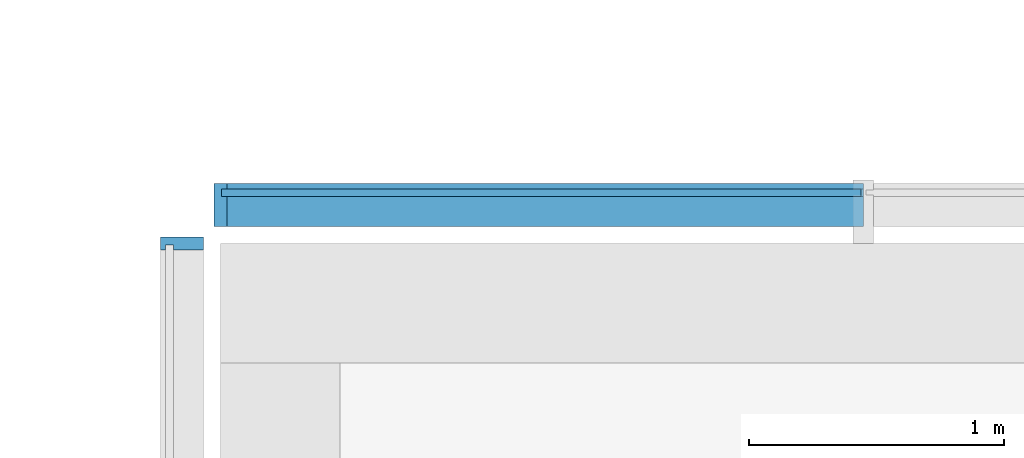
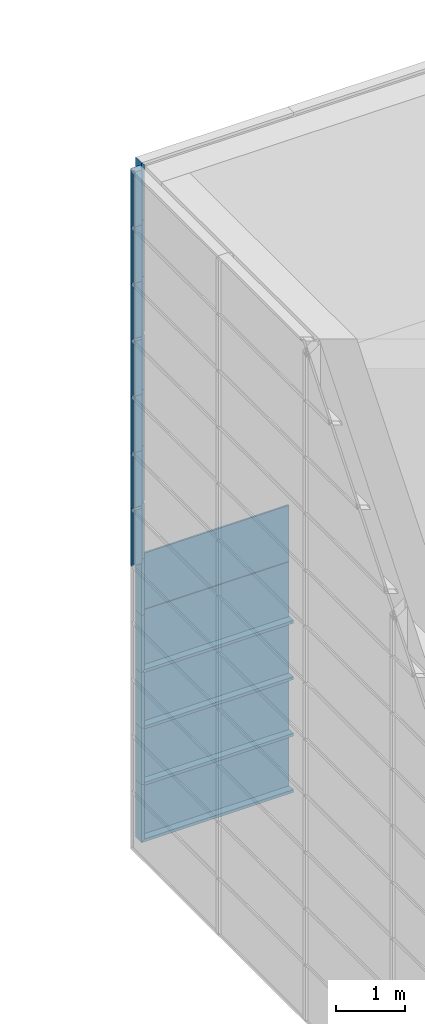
# One storey, part 39 of 105: 28 building element parts, 7 elements without a shape of their own.
"""IFC4 building model written with IfcOpenShell, lengths in millimetres."""

from ifc_helpers import new_model, entity, si_unit, converted_unit, derived_unit, direction, frame, origin_with_axes, place, context, subcontext, project, spatial, triangles, material, element, aggregate, save


model = new_model("IFC4")

# Units and contexts
model_context = context("Model", 3, precision=1e-05, world=origin_with_axes(), true_north=direction((0.0, 1.0)))
body_context = subcontext(model_context, "Body", "Model", "MODEL_VIEW")
ifc_project = project(units=[si_unit("LENGTHUNIT", "METRE", prefix="MILLI"), si_unit("AREAUNIT", "SQUARE_METRE"), si_unit("VOLUMEUNIT", "CUBIC_METRE"), converted_unit("PLANEANGLEUNIT", "DEGREE", entity("IfcLengthMeasure", 0.017453), si_unit("PLANEANGLEUNIT", "RADIAN"), dimensions=[0, 0, 0, 0, 0, 0, 0]), si_unit("SOLIDANGLEUNIT", "STERADIAN"), si_unit("MASSUNIT", "GRAM"), si_unit("TIMEUNIT", "SECOND"), si_unit("THERMODYNAMICTEMPERATUREUNIT", "DEGREE_CELSIUS"), si_unit("LUMINOUSINTENSITYUNIT", "LUMEN"), si_unit("POWERUNIT", "WATT"), derived_unit("THERMALTRANSMITTANCEUNIT", [(si_unit("POWERUNIT", "WATT"), 1), (si_unit("THERMODYNAMICTEMPERATUREUNIT", "KELVIN"), -1), (si_unit("AREAUNIT", "SQUARE_METRE"), -1)])], contexts=[model_context])

# Site, building, storey
site_placement = place(None, origin_with_axes())
site = spatial("IfcSite", under=ifc_project, at=site_placement, Name="Default Site", CompositionType="ELEMENT")
building_placement = place(site_placement, origin_with_axes())
building = spatial("IfcBuilding", under=site, at=building_placement, Name="Default Building", CompositionType="ELEMENT")
storey_placement = place(building_placement, origin_with_axes())
storey = spatial("IfcBuildingStorey", under=building, at=storey_placement, Name="OG - Story", CompositionType="ELEMENT", Elevation=0.0)

# Curtain wall, building element part
curtain_wall_1_placement = place(storey_placement, origin_with_axes())
curtain_wall_1 = element("IfcCurtainWall", 1, at=curtain_wall_1_placement, inside=storey, Name="Fassade-003", PredefinedType="NOTDEFINED")
ifc_material_1 = material(Name="Blech")
building_element_part_1_placement = place(curtain_wall_1_placement, frame((31551.391327, -51326.104944, 3000.0), z_axis=(0.0, 0.0, 1.0), x_axis=(1.0, 0.0, 0.0)))
building_element_part_1 = element("IfcBuildingElementPart", 2, at=building_element_part_1_placement, material=ifc_material_1, Name="Blech", PredefinedType="NOTDEFINED", context=body_context, shape_type="Tessellation", body=[
    triangles([(-14.999, 46731.842, 2995.0), (15.0, 46731.842, 2995.0), (133.0, 46761.842, 3025.0), (-34.999, 46761.842, 3025.0), (-34.999, 46711.842, 2975.0), (-14.999, 46711.842, 2975.0), (15.0, 46711.842, 2975.0), (133.0, 46711.842, 2975.0), (15.0, 46731.842, 2000.0), (15.0, 46711.842, 2000.0), (133.0, 46711.842, 2000.0), (133.0, 46761.842, 2000.0), (-34.999, 46761.842, 2000.0), (-34.999, 46711.842, 2000.0), (-14.999, 46711.842, 2000.0), (-14.999, 46731.842, 2000.0)], [[1, 2, 3], [1, 3, 4], [1, 4, 5], [1, 5, 6], [7, 8, 3], [7, 3, 2], [2, 9, 10], [2, 10, 7], [10, 11, 8], [10, 8, 7], [11, 12, 3], [11, 3, 8], [12, 13, 4], [12, 4, 3], [13, 14, 5], [13, 5, 4], [6, 5, 14], [6, 14, 15], [15, 16, 1], [15, 1, 6], [1, 16, 9], [1, 9, 2], [10, 11, 9], [9, 11, 12], [9, 12, 16], [16, 12, 13], [16, 13, 15], [15, 13, 14]], closed=False),
])
aggregate(curtain_wall_1, [building_element_part_1])

# Curtain wall, building element parts
curtain_wall_2_placement = place(storey_placement, origin_with_axes())
curtain_wall_2 = element("IfcCurtainWall", 3, at=curtain_wall_2_placement, inside=storey, Name="Fassade-003", PredefinedType="NOTDEFINED")
building_element_part_2_placement = place(curtain_wall_2_placement, frame((31551.391327, -51326.104944, 6000.0), z_axis=(0.0, 0.0, 1.0), x_axis=(1.0, 0.0, 0.0)))
building_element_part_2 = element("IfcBuildingElementPart", 4, at=building_element_part_2_placement, material=ifc_material_1, Name="Blech", PredefinedType="NOTDEFINED", context=body_context, shape_type="Tessellation", body=[
    triangles([(15.0, 46711.842, 1000.0), (133.0, 46711.842, 1000.0), (15.0, 46731.842, 1000.0), (133.0, 46761.842, 1000.0), (-14.999, 46731.842, 1000.0), (-34.999, 46761.842, 1000.0), (-14.999, 46711.842, 1000.0), (-34.999, 46711.842, 1000.0), (15.0, 46731.842, 5.0), (15.0, 46711.842, 25.0), (133.0, 46711.842, 25.0), (133.0, 46761.842, -24.999), (-34.999, 46761.842, -24.999), (-34.999, 46711.842, 25.0), (-14.999, 46711.842, 25.0), (-14.999, 46731.842, 5.0)], [[1, 2, 3], [3, 2, 4], [3, 4, 5], [5, 4, 6], [5, 6, 7], [7, 6, 8], [3, 9, 10], [3, 10, 1], [10, 11, 2], [10, 2, 1], [2, 11, 12], [2, 12, 4], [4, 12, 13], [4, 13, 6], [6, 13, 14], [6, 14, 8], [7, 8, 14], [7, 14, 15], [15, 16, 5], [15, 5, 7], [5, 16, 9], [5, 9, 3], [16, 9, 12], [16, 12, 13], [16, 13, 14], [16, 14, 15], [11, 12, 9], [11, 9, 10]], closed=False),
])
building_element_part_3_placement = place(curtain_wall_2_placement, frame((31551.391327, -51326.104944, 6000.0), z_axis=(0.0, 0.0, 1.0), x_axis=(1.0, 0.0, 0.0)))
building_element_part_3 = element("IfcBuildingElementPart", 5, at=building_element_part_3_placement, material=ifc_material_1, Name="Blech", PredefinedType="NOTDEFINED", context=body_context, shape_type="Tessellation", body=[
    triangles([(15.0, 46711.842, 2000.0), (133.0, 46711.842, 2000.0), (15.0, 46731.842, 2000.0), (133.0, 46761.842, 2000.0), (-14.999, 46731.842, 2000.0), (-34.999, 46761.842, 2000.0), (-14.999, 46711.842, 2000.0), (-34.999, 46711.842, 2000.0), (15.0, 46731.842, 1000.0), (15.0, 46711.842, 1000.0), (133.0, 46711.842, 1000.0), (133.0, 46761.842, 1000.0), (-34.999, 46761.842, 1000.0), (-34.999, 46711.842, 1000.0), (-14.999, 46711.842, 1000.0), (-14.999, 46731.842, 1000.0)], [[1, 2, 3], [3, 2, 4], [3, 4, 5], [5, 4, 6], [5, 6, 7], [7, 6, 8], [3, 9, 10], [3, 10, 1], [10, 11, 2], [10, 2, 1], [11, 12, 4], [11, 4, 2], [12, 13, 6], [12, 6, 4], [13, 14, 8], [13, 8, 6], [7, 8, 14], [7, 14, 15], [15, 16, 5], [15, 5, 7], [5, 16, 9], [5, 9, 3], [10, 11, 9], [9, 11, 12], [9, 12, 16], [16, 12, 13], [16, 13, 15], [15, 13, 14]], closed=False),
])
building_element_part_4_placement = place(curtain_wall_2_placement, frame((31551.391327, -51326.104944, 6000.0), z_axis=(0.0, 0.0, 1.0), x_axis=(1.0, 0.0, 0.0)))
building_element_part_4 = element("IfcBuildingElementPart", 6, at=building_element_part_4_placement, material=ifc_material_1, Name="Blech", PredefinedType="NOTDEFINED", context=body_context, shape_type="Tessellation", body=[
    triangles([(-14.999, 46731.842, 2995.0), (15.0, 46731.842, 2995.0), (133.0, 46761.842, 3025.0), (-34.999, 46761.842, 3025.0), (-34.999, 46711.842, 2975.0), (-14.999, 46711.842, 2975.0), (15.0, 46711.842, 2975.0), (133.0, 46711.842, 2975.0), (15.0, 46731.842, 2000.0), (15.0, 46711.842, 2000.0), (133.0, 46711.842, 2000.0), (133.0, 46761.842, 2000.0), (-34.999, 46761.842, 2000.0), (-34.999, 46711.842, 2000.0), (-14.999, 46711.842, 2000.0), (-14.999, 46731.842, 2000.0)], [[1, 2, 3], [1, 3, 4], [1, 4, 5], [1, 5, 6], [7, 8, 3], [7, 3, 2], [2, 9, 10], [2, 10, 7], [10, 11, 8], [10, 8, 7], [11, 12, 3], [11, 3, 8], [12, 13, 4], [12, 4, 3], [13, 14, 5], [13, 5, 4], [6, 5, 14], [6, 14, 15], [15, 16, 1], [15, 1, 6], [1, 16, 9], [1, 9, 2], [10, 11, 9], [9, 11, 12], [9, 12, 16], [16, 12, 13], [16, 13, 15], [15, 13, 14]], closed=False),
])
aggregate(curtain_wall_2, [building_element_part_2, building_element_part_3, building_element_part_4])

curtain_wall_3_placement = place(storey_placement, origin_with_axes())
curtain_wall_3 = element("IfcCurtainWall", 7, at=curtain_wall_3_placement, inside=storey, Name="Fassade-003", PredefinedType="NOTDEFINED")
building_element_part_5_placement = place(curtain_wall_3_placement, frame((31551.391327, -51326.104944, 9000.0), z_axis=(0.0, 0.0, 1.0), x_axis=(1.0, 0.0, 0.0)))
building_element_part_5 = element("IfcBuildingElementPart", 8, at=building_element_part_5_placement, material=ifc_material_1, Name="Blech", PredefinedType="NOTDEFINED", context=body_context, shape_type="Tessellation", body=[
    triangles([(15.0, 46711.842, 1000.0), (133.0, 46711.842, 1000.0), (15.0, 46731.842, 1000.0), (133.0, 46761.842, 1000.0), (-14.999, 46731.842, 1000.0), (-34.999, 46761.842, 1000.0), (-14.999, 46711.842, 1000.0), (-34.999, 46711.842, 1000.0), (15.0, 46731.842, 5.0), (15.0, 46711.842, 25.0), (133.0, 46711.842, 25.0), (133.0, 46761.842, -24.999), (-34.999, 46761.842, -24.999), (-34.999, 46711.842, 25.0), (-14.999, 46711.842, 25.0), (-14.999, 46731.842, 5.0)], [[1, 2, 3], [3, 2, 4], [3, 4, 5], [5, 4, 6], [5, 6, 7], [7, 6, 8], [3, 9, 10], [3, 10, 1], [10, 11, 2], [10, 2, 1], [2, 11, 12], [2, 12, 4], [4, 12, 13], [4, 13, 6], [6, 13, 14], [6, 14, 8], [7, 8, 14], [7, 14, 15], [15, 16, 5], [15, 5, 7], [5, 16, 9], [5, 9, 3], [16, 9, 12], [16, 12, 13], [16, 13, 14], [16, 14, 15], [11, 12, 9], [11, 9, 10]], closed=False),
])
building_element_part_6_placement = place(curtain_wall_3_placement, frame((31551.391327, -51326.104944, 9000.0), z_axis=(0.0, 0.0, 1.0), x_axis=(1.0, 0.0, 0.0)))
building_element_part_6 = element("IfcBuildingElementPart", 9, at=building_element_part_6_placement, material=ifc_material_1, Name="Blech", PredefinedType="NOTDEFINED", context=body_context, shape_type="Tessellation", body=[
    triangles([(15.0, 46711.842, 2000.0), (133.0, 46711.842, 2000.0), (15.0, 46731.842, 2000.0), (133.0, 46761.842, 2000.0), (-14.999, 46731.842, 2000.0), (-34.999, 46761.842, 2000.0), (-14.999, 46711.842, 2000.0), (-34.999, 46711.842, 2000.0), (15.0, 46731.842, 1000.0), (15.0, 46711.842, 1000.0), (133.0, 46711.842, 1000.0), (133.0, 46761.842, 1000.0), (-34.999, 46761.842, 1000.0), (-34.999, 46711.842, 1000.0), (-14.999, 46711.842, 1000.0), (-14.999, 46731.842, 1000.0)], [[1, 2, 3], [3, 2, 4], [3, 4, 5], [5, 4, 6], [5, 6, 7], [7, 6, 8], [3, 9, 10], [3, 10, 1], [10, 11, 2], [10, 2, 1], [11, 12, 4], [11, 4, 2], [12, 13, 6], [12, 6, 4], [13, 14, 8], [13, 8, 6], [7, 8, 14], [7, 14, 15], [15, 16, 5], [15, 5, 7], [5, 16, 9], [5, 9, 3], [10, 11, 9], [9, 11, 12], [9, 12, 16], [16, 12, 13], [16, 13, 15], [15, 13, 14]], closed=False),
])
building_element_part_7_placement = place(curtain_wall_3_placement, frame((31551.391327, -51326.104944, 9000.0), z_axis=(0.0, 0.0, 1.0), x_axis=(1.0, 0.0, 0.0)))
building_element_part_7 = element("IfcBuildingElementPart", 10, at=building_element_part_7_placement, material=ifc_material_1, Name="Blech", PredefinedType="NOTDEFINED", context=body_context, shape_type="Tessellation", body=[
    triangles([(-14.999, 46731.842, 2995.0), (15.0, 46731.842, 2995.0), (133.0, 46761.842, 3025.0), (-34.999, 46761.842, 3025.0), (-34.999, 46711.842, 2975.0), (-14.999, 46711.842, 2975.0), (15.0, 46711.842, 2975.0), (133.0, 46711.842, 2975.0), (15.0, 46731.842, 2000.0), (15.0, 46711.842, 2000.0), (133.0, 46711.842, 2000.0), (133.0, 46761.842, 2000.0), (-34.999, 46761.842, 2000.0), (-34.999, 46711.842, 2000.0), (-14.999, 46711.842, 2000.0), (-14.999, 46731.842, 2000.0)], [[1, 2, 3], [1, 3, 4], [1, 4, 5], [1, 5, 6], [7, 8, 3], [7, 3, 2], [2, 9, 10], [2, 10, 7], [10, 11, 8], [10, 8, 7], [11, 12, 3], [11, 3, 8], [12, 13, 4], [12, 4, 3], [13, 14, 5], [13, 5, 4], [6, 5, 14], [6, 14, 15], [15, 16, 1], [15, 1, 6], [1, 16, 9], [1, 9, 2], [10, 11, 9], [9, 11, 12], [9, 12, 16], [16, 12, 13], [16, 13, 15], [15, 13, 14]], closed=False),
])
aggregate(curtain_wall_3, [building_element_part_5, building_element_part_6, building_element_part_7])

curtain_wall_4_placement = place(storey_placement, origin_with_axes())
curtain_wall_4 = element("IfcCurtainWall", 11, at=curtain_wall_4_placement, inside=storey, Name="Fassade-004", PredefinedType="NOTDEFINED")
ifc_material_2 = material(Name="Normalglas")
building_element_part_8_placement = place(curtain_wall_4_placement, frame((33014.549222, -4389.262838, 0.0), z_axis=(0.0, 0.0, 1.0), x_axis=(1.0, 0.0, 0.0)))
building_element_part_8 = element("IfcBuildingElementPart", 12, at=building_element_part_8_placement, material=ifc_material_2, Name="Normalglas", PredefinedType="NOTDEFINED", context=body_context, shape_type="Tessellation", body=[
    triangles([(1253.158, -14.999, 995.0), (1253.158, 15.0, 995.0), (-1258.157, 15.0, 995.0), (-1258.157, -14.999, 995.0), (1253.158, -14.999, 5.0), (1253.158, 15.0, 5.0), (-1258.157, 15.0, 5.0), (-1258.157, -14.999, 5.0)], [[1, 2, 3], [1, 3, 4], [5, 6, 2], [5, 2, 1], [2, 6, 7], [2, 7, 3], [4, 3, 7], [4, 7, 8], [1, 4, 8], [1, 8, 5], [8, 7, 6], [8, 6, 5]], closed=False),
])
building_element_part_9_placement = place(curtain_wall_4_placement, frame((33014.549222, -4389.262838, 0.0), z_axis=(0.0, 0.0, 1.0), x_axis=(1.0, 0.0, 0.0)))
building_element_part_9 = element("IfcBuildingElementPart", 13, at=building_element_part_9_placement, material=ifc_material_2, Name="Normalglas", PredefinedType="NOTDEFINED", context=body_context, shape_type="Tessellation", body=[
    triangles([(1253.158, -14.999, 1995.0), (1253.158, 15.0, 1995.0), (-1258.157, 15.0, 1995.0), (-1258.157, -14.999, 1995.0), (1253.158, -14.999, 1005.0), (1253.158, 15.0, 1005.0), (-1258.157, 15.0, 1005.0), (-1258.157, -14.999, 1005.0)], [[1, 2, 3], [1, 3, 4], [5, 6, 2], [5, 2, 1], [2, 6, 7], [2, 7, 3], [4, 3, 7], [4, 7, 8], [1, 4, 8], [1, 8, 5], [8, 7, 6], [8, 6, 5]], closed=False),
])
building_element_part_10_placement = place(curtain_wall_4_placement, frame((33014.549222, -4389.262838, 0.0), z_axis=(0.0, 0.0, 1.0), x_axis=(1.0, 0.0, 0.0)))
building_element_part_10 = element("IfcBuildingElementPart", 14, at=building_element_part_10_placement, material=ifc_material_2, Name="Normalglas", PredefinedType="NOTDEFINED", context=body_context, shape_type="Tessellation", body=[
    triangles([(1253.158, -14.999, 2995.0), (1253.158, 15.0, 2995.0), (-1258.157, 15.0, 2995.0), (-1258.157, -14.999, 2995.0), (1253.158, -14.999, 2005.0), (1253.158, 15.0, 2005.0), (-1258.157, 15.0, 2005.0), (-1258.157, -14.999, 2005.0)], [[1, 2, 3], [1, 3, 4], [5, 6, 2], [5, 2, 1], [2, 6, 7], [2, 7, 3], [4, 3, 7], [4, 7, 8], [1, 4, 8], [1, 8, 5], [8, 7, 6], [8, 6, 5]], closed=False),
])
building_element_part_11_placement = place(curtain_wall_4_placement, frame((33014.549222, -4389.262838, 0.0), z_axis=(0.0, 0.0, 1.0), x_axis=(1.0, 0.0, 0.0)))
building_element_part_11 = element("IfcBuildingElementPart", 15, at=building_element_part_11_placement, material=ifc_material_1, Name="Blech", PredefinedType="NOTDEFINED", context=body_context, shape_type="Tessellation", body=[
    triangles([(1263.158, 35.0, -24.999), (1263.158, 35.0, 25.0), (1263.158, 15.0, 25.0), (1263.158, 15.0, 5.0), (1263.158, -14.999, 5.0), (1263.158, -132.999, 25.0), (1263.158, -132.999, -24.999), (1263.158, -14.999, 25.0), (-1258.157, -14.999, 5.0), (-1238.157, -14.999, 25.0), (-1238.157, -132.999, 25.0), (-1288.157, -132.999, -24.999), (-1288.157, 35.0, -24.999), (-1238.157, 35.0, 25.0), (-1238.157, 15.0, 25.0), (-1258.157, 15.0, 5.0)], [[1, 2, 3], [1, 3, 4], [1, 4, 5], [1, 5, 6], [1, 6, 7], [8, 6, 5], [5, 9, 10], [5, 10, 8], [10, 11, 6], [10, 6, 8], [6, 11, 12], [6, 12, 7], [7, 12, 13], [7, 13, 1], [1, 13, 14], [1, 14, 2], [3, 2, 14], [3, 14, 15], [15, 16, 4], [15, 4, 3], [4, 16, 9], [4, 9, 5], [15, 16, 13], [13, 16, 9], [13, 9, 11], [11, 9, 10], [13, 11, 12], [15, 13, 14]], closed=False),
])
building_element_part_12_placement = place(curtain_wall_4_placement, frame((33014.549222, -4389.262838, 0.0), z_axis=(0.0, 0.0, 1.0), x_axis=(1.0, 0.0, 0.0)))
building_element_part_12 = element("IfcBuildingElementPart", 16, at=building_element_part_12_placement, material=ifc_material_1, Name="Blech", PredefinedType="NOTDEFINED", context=body_context, shape_type="Tessellation", body=[
    triangles([(-1258.157, 15.0, 1000.0), (-1258.157, -14.999, 1000.0), (-1288.157, -132.999, 1000.0), (-1288.157, 35.0, 1000.0), (-1238.157, 35.0, 1000.0), (-1238.157, 15.0, 1000.0), (-1238.157, -132.999, 1000.0), (-1238.157, -14.999, 1000.0), (-1258.157, -14.999, 5.0), (-1258.157, 15.0, 5.0), (-1238.157, 15.0, 25.0), (-1238.157, 35.0, 25.0), (-1288.157, 35.0, -24.999), (-1288.157, -132.999, -24.999), (-1238.157, -132.999, 25.0), (-1238.157, -14.999, 25.0)], [[1, 2, 3], [1, 3, 4], [1, 4, 5], [1, 5, 6], [7, 3, 2], [7, 2, 8], [1, 2, 9], [1, 9, 10], [11, 6, 1], [11, 1, 10], [6, 11, 12], [6, 12, 5], [4, 5, 12], [4, 12, 13], [3, 4, 13], [3, 13, 14], [7, 3, 14], [7, 14, 15], [16, 8, 7], [16, 7, 15], [2, 8, 16], [2, 16, 9], [13, 12, 11], [13, 11, 10], [13, 10, 9], [13, 9, 15], [13, 15, 14], [16, 15, 9]], closed=False),
])
building_element_part_13_placement = place(curtain_wall_4_placement, frame((33014.549222, -4389.262838, 0.0), z_axis=(0.0, 0.0, 1.0), x_axis=(1.0, 0.0, 0.0)))
building_element_part_13 = element("IfcBuildingElementPart", 17, at=building_element_part_13_placement, material=ifc_material_1, Name="Blech", PredefinedType="NOTDEFINED", context=body_context, shape_type="Tessellation", body=[
    triangles([(1263.158, 35.0, 975.0), (1263.158, 15.0, 975.0), (1263.158, 35.0, 1025.0), (1263.158, 15.0, 995.0), (1263.158, 15.0, 1005.0), (1263.158, -14.999, 995.0), (1263.158, -14.999, 1005.0), (1263.158, -14.999, 1025.0), (1263.158, -14.999, 975.0), (1263.158, -132.999, 975.0), (1263.158, -132.999, 1025.0), (1263.158, 15.0, 1025.0), (-1238.157, -14.999, 995.0), (-1238.157, 15.0, 995.0), (-1238.157, 15.0, 975.0), (-1238.157, 35.0, 975.0), (-1238.157, 35.0, 1025.0), (-1238.157, 15.0, 1025.0), (-1238.157, 15.0, 1005.0), (-1238.157, -14.999, 1005.0), (-1238.157, -14.999, 1025.0), (-1238.157, -132.999, 1025.0), (-1238.157, -132.999, 975.0), (-1238.157, -14.999, 975.0)], [[1, 2, 3], [3, 2, 4], [3, 4, 5], [5, 4, 6], [5, 6, 7], [8, 9, 10], [8, 10, 11], [3, 5, 12], [6, 13, 14], [6, 14, 4], [4, 14, 15], [4, 15, 2], [15, 16, 1], [15, 1, 2], [3, 1, 16], [3, 16, 17], [18, 12, 3], [18, 3, 17], [12, 18, 19], [12, 19, 5], [7, 5, 19], [7, 19, 20], [8, 7, 20], [8, 20, 21], [8, 21, 22], [8, 22, 11], [10, 11, 22], [10, 22, 23], [9, 10, 23], [9, 23, 24], [9, 24, 13], [9, 13, 6], [17, 18, 16], [16, 18, 19], [16, 19, 14], [14, 19, 20], [14, 20, 13], [24, 21, 22], [24, 22, 23], [16, 14, 15]], closed=False),
])
building_element_part_14_placement = place(curtain_wall_4_placement, frame((33014.549222, -4389.262838, 0.0), z_axis=(0.0, 0.0, 1.0), x_axis=(1.0, 0.0, 0.0)))
building_element_part_14 = element("IfcBuildingElementPart", 18, at=building_element_part_14_placement, material=ifc_material_1, Name="Blech", PredefinedType="NOTDEFINED", context=body_context, shape_type="Tessellation", body=[
    triangles([(-1258.157, 15.0, 2000.0), (-1258.157, -14.999, 2000.0), (-1288.157, -132.999, 2000.0), (-1288.157, 35.0, 2000.0), (-1238.157, 35.0, 2000.0), (-1238.157, 15.0, 2000.0), (-1238.157, -132.999, 2000.0), (-1238.157, -14.999, 2000.0), (-1258.157, -14.999, 1000.0), (-1258.157, 15.0, 1000.0), (-1238.157, 15.0, 1000.0), (-1238.157, 35.0, 1000.0), (-1288.157, 35.0, 1000.0), (-1288.157, -132.999, 1000.0), (-1238.157, -132.999, 1000.0), (-1238.157, -14.999, 1000.0)], [[1, 2, 3], [1, 3, 4], [1, 4, 5], [1, 5, 6], [7, 3, 2], [7, 2, 8], [1, 2, 9], [1, 9, 10], [11, 6, 1], [11, 1, 10], [6, 11, 12], [6, 12, 5], [13, 4, 5], [13, 5, 12], [14, 3, 4], [14, 4, 13], [15, 7, 3], [15, 3, 14], [16, 8, 7], [16, 7, 15], [2, 8, 16], [2, 16, 9], [16, 15, 9], [9, 15, 14], [9, 14, 10], [10, 14, 13], [10, 13, 12], [10, 12, 11]], closed=False),
])
building_element_part_15_placement = place(curtain_wall_4_placement, frame((33014.549222, -4389.262838, 0.0), z_axis=(0.0, 0.0, 1.0), x_axis=(1.0, 0.0, 0.0)))
building_element_part_15 = element("IfcBuildingElementPart", 19, at=building_element_part_15_placement, material=ifc_material_1, Name="Blech", PredefinedType="NOTDEFINED", context=body_context, shape_type="Tessellation", body=[
    triangles([(1263.158, 35.0, 1975.0), (1263.158, 15.0, 1975.0), (1263.158, 35.0, 2025.0), (1263.158, 15.0, 1995.0), (1263.158, 15.0, 2005.0), (1263.158, -14.999, 1995.0), (1263.158, -14.999, 2005.0), (1263.158, -14.999, 2025.0), (1263.158, -14.999, 1975.0), (1263.158, -132.999, 1975.0), (1263.158, -132.999, 2025.0), (1263.158, 15.0, 2025.0), (-1238.157, -14.999, 1995.0), (-1238.157, 15.0, 1995.0), (-1238.157, 15.0, 1975.0), (-1238.157, 35.0, 1975.0), (-1238.157, 35.0, 2025.0), (-1238.157, 15.0, 2025.0), (-1238.157, 15.0, 2005.0), (-1238.157, -14.999, 2005.0), (-1238.157, -14.999, 2025.0), (-1238.157, -132.999, 2025.0), (-1238.157, -132.999, 1975.0), (-1238.157, -14.999, 1975.0)], [[1, 2, 3], [3, 2, 4], [3, 4, 5], [5, 4, 6], [5, 6, 7], [8, 9, 10], [8, 10, 11], [3, 5, 12], [6, 13, 14], [6, 14, 4], [4, 14, 15], [4, 15, 2], [15, 16, 1], [15, 1, 2], [3, 1, 16], [3, 16, 17], [18, 12, 3], [18, 3, 17], [12, 18, 19], [12, 19, 5], [7, 5, 19], [7, 19, 20], [8, 7, 20], [8, 20, 21], [8, 21, 22], [8, 22, 11], [10, 11, 22], [10, 22, 23], [9, 10, 23], [9, 23, 24], [9, 24, 13], [9, 13, 6], [17, 18, 16], [16, 18, 19], [16, 19, 14], [14, 19, 20], [14, 20, 13], [24, 21, 22], [24, 22, 23], [16, 14, 15]], closed=False),
])
building_element_part_16_placement = place(curtain_wall_4_placement, frame((33014.549222, -4389.262838, 0.0), z_axis=(0.0, 0.0, 1.0), x_axis=(1.0, 0.0, 0.0)))
building_element_part_16 = element("IfcBuildingElementPart", 20, at=building_element_part_16_placement, material=ifc_material_1, Name="Blech", PredefinedType="NOTDEFINED", context=body_context, shape_type="Tessellation", body=[
    triangles([(1263.158, 15.0, 2975.0), (1263.158, 15.0, 2995.0), (1263.158, 35.0, 3025.0), (1263.158, -14.999, 2995.0), (1263.158, -132.999, 2975.0), (1263.158, -14.999, 2975.0), (1263.158, -132.999, 3025.0), (1263.158, 35.0, 2975.0), (-1258.157, -14.999, 2995.0), (-1258.157, 15.0, 2995.0), (-1238.157, 15.0, 2975.0), (-1238.157, 35.0, 2975.0), (-1288.157, 35.0, 3025.0), (-1288.157, -132.999, 3025.0), (-1238.157, -132.999, 2975.0), (-1238.157, -14.999, 2975.0)], [[1, 2, 3], [3, 2, 4], [3, 4, 5], [5, 4, 6], [3, 5, 7], [1, 3, 8], [2, 4, 9], [2, 9, 10], [11, 1, 2], [11, 2, 10], [1, 11, 12], [1, 12, 8], [3, 8, 12], [3, 12, 13], [7, 3, 13], [7, 13, 14], [5, 7, 14], [5, 14, 15], [16, 6, 5], [16, 5, 15], [4, 6, 16], [4, 16, 9], [13, 12, 11], [13, 11, 10], [13, 10, 9], [13, 9, 15], [13, 15, 14], [16, 15, 9]], closed=False),
])
building_element_part_17_placement = place(curtain_wall_4_placement, frame((33014.549222, -4389.262838, 0.0), z_axis=(0.0, 0.0, 1.0), x_axis=(1.0, 0.0, 0.0)))
building_element_part_17 = element("IfcBuildingElementPart", 21, at=building_element_part_17_placement, material=ifc_material_1, Name="Blech", PredefinedType="NOTDEFINED", context=body_context, shape_type="Tessellation", body=[
    triangles([(-1238.157, 15.0, 2975.0), (-1258.157, 15.0, 2995.0), (-1288.157, 35.0, 3025.0), (-1258.157, -14.999, 2995.0), (-1238.157, -132.999, 2975.0), (-1238.157, -14.999, 2975.0), (-1288.157, -132.999, 3025.0), (-1238.157, 35.0, 2975.0), (-1258.157, -14.999, 2000.0), (-1258.157, 15.0, 2000.0), (-1238.157, 15.0, 2000.0), (-1238.157, 35.0, 2000.0), (-1288.157, 35.0, 2000.0), (-1288.157, -132.999, 2000.0), (-1238.157, -132.999, 2000.0), (-1238.157, -14.999, 2000.0)], [[1, 2, 3], [3, 2, 4], [3, 4, 5], [5, 4, 6], [3, 5, 7], [1, 3, 8], [2, 4, 9], [2, 9, 10], [11, 1, 2], [11, 2, 10], [1, 11, 12], [1, 12, 8], [13, 3, 8], [13, 8, 12], [14, 7, 3], [14, 3, 13], [15, 5, 7], [15, 7, 14], [16, 6, 5], [16, 5, 15], [4, 6, 16], [4, 16, 9], [16, 15, 9], [9, 15, 14], [9, 14, 10], [10, 14, 13], [10, 13, 12], [10, 12, 11]], closed=False),
])
aggregate(curtain_wall_4, [building_element_part_8, building_element_part_9, building_element_part_10, building_element_part_11, building_element_part_12, building_element_part_13, building_element_part_14, building_element_part_15, building_element_part_16, building_element_part_17])

curtain_wall_5_placement = place(storey_placement, origin_with_axes())
curtain_wall_5 = element("IfcCurtainWall", 22, at=curtain_wall_5_placement, inside=storey, Name="Fassade-004", PredefinedType="NOTDEFINED")
building_element_part_18_placement = place(curtain_wall_5_placement, frame((33014.549222, -4389.262838, 3000.0), z_axis=(0.0, 0.0, 1.0), x_axis=(1.0, 0.0, 0.0)))
building_element_part_18 = element("IfcBuildingElementPart", 23, at=building_element_part_18_placement, material=ifc_material_2, Name="Normalglas", PredefinedType="NOTDEFINED", context=body_context, shape_type="Tessellation", body=[
    triangles([(1253.158, -14.999, 995.0), (1253.158, 15.0, 995.0), (-1258.157, 15.0, 995.0), (-1258.157, -14.999, 995.0), (1253.158, -14.999, 5.0), (1253.158, 15.0, 5.0), (-1258.157, 15.0, 5.0), (-1258.157, -14.999, 5.0)], [[1, 2, 3], [1, 3, 4], [5, 6, 2], [5, 2, 1], [2, 6, 7], [2, 7, 3], [4, 3, 7], [4, 7, 8], [1, 4, 8], [1, 8, 5], [8, 7, 6], [8, 6, 5]], closed=False),
])
building_element_part_19_placement = place(curtain_wall_5_placement, frame((33014.549222, -4389.262838, 3000.0), z_axis=(0.0, 0.0, 1.0), x_axis=(1.0, 0.0, 0.0)))
building_element_part_19 = element("IfcBuildingElementPart", 24, at=building_element_part_19_placement, material=ifc_material_2, Name="Normalglas", PredefinedType="NOTDEFINED", context=body_context, shape_type="Tessellation", body=[
    triangles([(1253.158, -14.999, 1995.0), (1253.158, 15.0, 1995.0), (-1258.157, 15.0, 1995.0), (-1258.157, -14.999, 1995.0), (1253.158, -14.999, 1005.0), (1253.158, 15.0, 1005.0), (-1258.157, 15.0, 1005.0), (-1258.157, -14.999, 1005.0)], [[1, 2, 3], [1, 3, 4], [5, 6, 2], [5, 2, 1], [2, 6, 7], [2, 7, 3], [4, 3, 7], [4, 7, 8], [1, 4, 8], [1, 8, 5], [8, 7, 6], [8, 6, 5]], closed=False),
])
building_element_part_20_placement = place(curtain_wall_5_placement, frame((33014.549222, -4389.262838, 3000.0), z_axis=(0.0, 0.0, 1.0), x_axis=(1.0, 0.0, 0.0)))
building_element_part_20 = element("IfcBuildingElementPart", 25, at=building_element_part_20_placement, material=ifc_material_1, Name="Blech", PredefinedType="NOTDEFINED", context=body_context, shape_type="Tessellation", body=[
    triangles([(-1258.157, 15.0, 1000.0), (-1258.157, -14.999, 1000.0), (-1288.157, -132.999, 1000.0), (-1288.157, 35.0, 1000.0), (-1238.157, 35.0, 1000.0), (-1238.157, 15.0, 1000.0), (-1238.157, -132.999, 1000.0), (-1238.157, -14.999, 1000.0), (-1258.157, -14.999, 5.0), (-1258.157, 15.0, 5.0), (-1238.157, 15.0, 25.0), (-1238.157, 35.0, 25.0), (-1288.157, 35.0, -24.999), (-1288.157, -132.999, -24.999), (-1238.157, -132.999, 25.0), (-1238.157, -14.999, 25.0)], [[1, 2, 3], [1, 3, 4], [1, 4, 5], [1, 5, 6], [7, 3, 2], [7, 2, 8], [1, 2, 9], [1, 9, 10], [11, 6, 1], [11, 1, 10], [6, 11, 12], [6, 12, 5], [4, 5, 12], [4, 12, 13], [3, 4, 13], [3, 13, 14], [7, 3, 14], [7, 14, 15], [16, 8, 7], [16, 7, 15], [2, 8, 16], [2, 16, 9], [13, 12, 11], [13, 11, 10], [13, 10, 9], [13, 9, 15], [13, 15, 14], [16, 15, 9]], closed=False),
])
building_element_part_21_placement = place(curtain_wall_5_placement, frame((33014.549222, -4389.262838, 3000.0), z_axis=(0.0, 0.0, 1.0), x_axis=(1.0, 0.0, 0.0)))
building_element_part_21 = element("IfcBuildingElementPart", 26, at=building_element_part_21_placement, material=ifc_material_1, Name="Blech", PredefinedType="NOTDEFINED", context=body_context, shape_type="Tessellation", body=[
    triangles([(-1258.157, 15.0, 2000.0), (-1258.157, -14.999, 2000.0), (-1288.157, -132.999, 2000.0), (-1288.157, 35.0, 2000.0), (-1238.157, 35.0, 2000.0), (-1238.157, 15.0, 2000.0), (-1238.157, -132.999, 2000.0), (-1238.157, -14.999, 2000.0), (-1258.157, -14.999, 1000.0), (-1258.157, 15.0, 1000.0), (-1238.157, 15.0, 1000.0), (-1238.157, 35.0, 1000.0), (-1288.157, 35.0, 1000.0), (-1288.157, -132.999, 1000.0), (-1238.157, -132.999, 1000.0), (-1238.157, -14.999, 1000.0)], [[1, 2, 3], [1, 3, 4], [1, 4, 5], [1, 5, 6], [7, 3, 2], [7, 2, 8], [1, 2, 9], [1, 9, 10], [11, 6, 1], [11, 1, 10], [6, 11, 12], [6, 12, 5], [13, 4, 5], [13, 5, 12], [14, 3, 4], [14, 4, 13], [15, 7, 3], [15, 3, 14], [16, 8, 7], [16, 7, 15], [2, 8, 16], [2, 16, 9], [16, 15, 9], [9, 15, 14], [9, 14, 10], [10, 14, 13], [10, 13, 12], [10, 12, 11]], closed=False),
])
building_element_part_22_placement = place(curtain_wall_5_placement, frame((33014.549222, -4389.262838, 3000.0), z_axis=(0.0, 0.0, 1.0), x_axis=(1.0, 0.0, 0.0)))
building_element_part_22 = element("IfcBuildingElementPart", 27, at=building_element_part_22_placement, material=ifc_material_1, Name="Blech", PredefinedType="NOTDEFINED", context=body_context, shape_type="Tessellation", body=[
    triangles([(-1238.157, 15.0, 2975.0), (-1258.157, 15.0, 2995.0), (-1288.157, 35.0, 3025.0), (-1258.157, -14.999, 2995.0), (-1238.157, -132.999, 2975.0), (-1238.157, -14.999, 2975.0), (-1288.157, -132.999, 3025.0), (-1238.157, 35.0, 2975.0), (-1258.157, -14.999, 2000.0), (-1258.157, 15.0, 2000.0), (-1238.157, 15.0, 2000.0), (-1238.157, 35.0, 2000.0), (-1288.157, 35.0, 2000.0), (-1288.157, -132.999, 2000.0), (-1238.157, -132.999, 2000.0), (-1238.157, -14.999, 2000.0)], [[1, 2, 3], [3, 2, 4], [3, 4, 5], [5, 4, 6], [3, 5, 7], [1, 3, 8], [2, 4, 9], [2, 9, 10], [11, 1, 2], [11, 2, 10], [1, 11, 12], [1, 12, 8], [13, 3, 8], [13, 8, 12], [14, 7, 3], [14, 3, 13], [15, 5, 7], [15, 7, 14], [16, 6, 5], [16, 5, 15], [4, 6, 16], [4, 16, 9], [16, 15, 9], [9, 15, 14], [9, 14, 10], [10, 14, 13], [10, 13, 12], [10, 12, 11]], closed=False),
])
aggregate(curtain_wall_5, [building_element_part_18, building_element_part_19, building_element_part_20, building_element_part_21, building_element_part_22])

curtain_wall_6_placement = place(storey_placement, origin_with_axes())
curtain_wall_6 = element("IfcCurtainWall", 28, at=curtain_wall_6_placement, inside=storey, Name="Fassade-004", PredefinedType="NOTDEFINED")
building_element_part_23_placement = place(curtain_wall_6_placement, frame((33014.549222, -4389.262838, 6000.0), z_axis=(0.0, 0.0, 1.0), x_axis=(1.0, 0.0, 0.0)))
building_element_part_23 = element("IfcBuildingElementPart", 29, at=building_element_part_23_placement, material=ifc_material_1, Name="Blech", PredefinedType="NOTDEFINED", context=body_context, shape_type="Tessellation", body=[
    triangles([(-1258.157, 15.0, 1000.0), (-1258.157, -14.999, 1000.0), (-1288.157, -132.999, 1000.0), (-1288.157, 35.0, 1000.0), (-1238.157, 35.0, 1000.0), (-1238.157, 15.0, 1000.0), (-1238.157, -132.999, 1000.0), (-1238.157, -14.999, 1000.0), (-1258.157, -14.999, 5.0), (-1258.157, 15.0, 5.0), (-1238.157, 15.0, 25.0), (-1238.157, 35.0, 25.0), (-1288.157, 35.0, -24.999), (-1288.157, -132.999, -24.999), (-1238.157, -132.999, 25.0), (-1238.157, -14.999, 25.0)], [[1, 2, 3], [1, 3, 4], [1, 4, 5], [1, 5, 6], [7, 3, 2], [7, 2, 8], [1, 2, 9], [1, 9, 10], [11, 6, 1], [11, 1, 10], [6, 11, 12], [6, 12, 5], [4, 5, 12], [4, 12, 13], [3, 4, 13], [3, 13, 14], [7, 3, 14], [7, 14, 15], [16, 8, 7], [16, 7, 15], [2, 8, 16], [2, 16, 9], [13, 12, 11], [13, 11, 10], [13, 10, 9], [13, 9, 15], [13, 15, 14], [16, 15, 9]], closed=False),
])
building_element_part_24_placement = place(curtain_wall_6_placement, frame((33014.549222, -4389.262838, 6000.0), z_axis=(0.0, 0.0, 1.0), x_axis=(1.0, 0.0, 0.0)))
building_element_part_24 = element("IfcBuildingElementPart", 30, at=building_element_part_24_placement, material=ifc_material_1, Name="Blech", PredefinedType="NOTDEFINED", context=body_context, shape_type="Tessellation", body=[
    triangles([(-1258.157, 15.0, 2000.0), (-1258.157, -14.999, 2000.0), (-1288.157, -132.999, 2000.0), (-1288.157, 35.0, 2000.0), (-1238.157, 35.0, 2000.0), (-1238.157, 15.0, 2000.0), (-1238.157, -132.999, 2000.0), (-1238.157, -14.999, 2000.0), (-1258.157, -14.999, 1000.0), (-1258.157, 15.0, 1000.0), (-1238.157, 15.0, 1000.0), (-1238.157, 35.0, 1000.0), (-1288.157, 35.0, 1000.0), (-1288.157, -132.999, 1000.0), (-1238.157, -132.999, 1000.0), (-1238.157, -14.999, 1000.0)], [[1, 2, 3], [1, 3, 4], [1, 4, 5], [1, 5, 6], [7, 3, 2], [7, 2, 8], [1, 2, 9], [1, 9, 10], [11, 6, 1], [11, 1, 10], [6, 11, 12], [6, 12, 5], [13, 4, 5], [13, 5, 12], [14, 3, 4], [14, 4, 13], [15, 7, 3], [15, 3, 14], [16, 8, 7], [16, 7, 15], [2, 8, 16], [2, 16, 9], [16, 15, 9], [9, 15, 14], [9, 14, 10], [10, 14, 13], [10, 13, 12], [10, 12, 11]], closed=False),
])
building_element_part_25_placement = place(curtain_wall_6_placement, frame((33014.549222, -4389.262838, 6000.0), z_axis=(0.0, 0.0, 1.0), x_axis=(1.0, 0.0, 0.0)))
building_element_part_25 = element("IfcBuildingElementPart", 31, at=building_element_part_25_placement, material=ifc_material_1, Name="Blech", PredefinedType="NOTDEFINED", context=body_context, shape_type="Tessellation", body=[
    triangles([(-1238.157, 15.0, 2975.0), (-1258.157, 15.0, 2995.0), (-1288.157, 35.0, 3025.0), (-1258.157, -14.999, 2995.0), (-1238.157, -132.999, 2975.0), (-1238.157, -14.999, 2975.0), (-1288.157, -132.999, 3025.0), (-1238.157, 35.0, 2975.0), (-1258.157, -14.999, 2000.0), (-1258.157, 15.0, 2000.0), (-1238.157, 15.0, 2000.0), (-1238.157, 35.0, 2000.0), (-1288.157, 35.0, 2000.0), (-1288.157, -132.999, 2000.0), (-1238.157, -132.999, 2000.0), (-1238.157, -14.999, 2000.0)], [[1, 2, 3], [3, 2, 4], [3, 4, 5], [5, 4, 6], [3, 5, 7], [1, 3, 8], [2, 4, 9], [2, 9, 10], [11, 1, 2], [11, 2, 10], [1, 11, 12], [1, 12, 8], [13, 3, 8], [13, 8, 12], [14, 7, 3], [14, 3, 13], [15, 5, 7], [15, 7, 14], [16, 6, 5], [16, 5, 15], [4, 6, 16], [4, 16, 9], [16, 15, 9], [9, 15, 14], [9, 14, 10], [10, 14, 13], [10, 13, 12], [10, 12, 11]], closed=False),
])
aggregate(curtain_wall_6, [building_element_part_23, building_element_part_24, building_element_part_25])

curtain_wall_7_placement = place(storey_placement, origin_with_axes())
curtain_wall_7 = element("IfcCurtainWall", 32, at=curtain_wall_7_placement, inside=storey, Name="Fassade-004", PredefinedType="NOTDEFINED")
building_element_part_26_placement = place(curtain_wall_7_placement, frame((33014.549222, -4389.262838, 9000.0), z_axis=(0.0, 0.0, 1.0), x_axis=(1.0, 0.0, 0.0)))
building_element_part_26 = element("IfcBuildingElementPart", 33, at=building_element_part_26_placement, material=ifc_material_1, Name="Blech", PredefinedType="NOTDEFINED", context=body_context, shape_type="Tessellation", body=[
    triangles([(-1258.157, 15.0, 1000.0), (-1258.157, -14.999, 1000.0), (-1288.157, -132.999, 1000.0), (-1288.157, 35.0, 1000.0), (-1238.157, 35.0, 1000.0), (-1238.157, 15.0, 1000.0), (-1238.157, -132.999, 1000.0), (-1238.157, -14.999, 1000.0), (-1258.157, -14.999, 5.0), (-1258.157, 15.0, 5.0), (-1238.157, 15.0, 25.0), (-1238.157, 35.0, 25.0), (-1288.157, 35.0, -24.999), (-1288.157, -132.999, -24.999), (-1238.157, -132.999, 25.0), (-1238.157, -14.999, 25.0)], [[1, 2, 3], [1, 3, 4], [1, 4, 5], [1, 5, 6], [7, 3, 2], [7, 2, 8], [1, 2, 9], [1, 9, 10], [11, 6, 1], [11, 1, 10], [6, 11, 12], [6, 12, 5], [4, 5, 12], [4, 12, 13], [3, 4, 13], [3, 13, 14], [7, 3, 14], [7, 14, 15], [16, 8, 7], [16, 7, 15], [2, 8, 16], [2, 16, 9], [13, 12, 11], [13, 11, 10], [13, 10, 9], [13, 9, 15], [13, 15, 14], [16, 15, 9]], closed=False),
])
building_element_part_27_placement = place(curtain_wall_7_placement, frame((33014.549222, -4389.262838, 9000.0), z_axis=(0.0, 0.0, 1.0), x_axis=(1.0, 0.0, 0.0)))
building_element_part_27 = element("IfcBuildingElementPart", 34, at=building_element_part_27_placement, material=ifc_material_1, Name="Blech", PredefinedType="NOTDEFINED", context=body_context, shape_type="Tessellation", body=[
    triangles([(-1258.157, 15.0, 2000.0), (-1258.157, -14.999, 2000.0), (-1288.157, -132.999, 2000.0), (-1288.157, 35.0, 2000.0), (-1238.157, 35.0, 2000.0), (-1238.157, 15.0, 2000.0), (-1238.157, -132.999, 2000.0), (-1238.157, -14.999, 2000.0), (-1258.157, -14.999, 1000.0), (-1258.157, 15.0, 1000.0), (-1238.157, 15.0, 1000.0), (-1238.157, 35.0, 1000.0), (-1288.157, 35.0, 1000.0), (-1288.157, -132.999, 1000.0), (-1238.157, -132.999, 1000.0), (-1238.157, -14.999, 1000.0)], [[1, 2, 3], [1, 3, 4], [1, 4, 5], [1, 5, 6], [7, 3, 2], [7, 2, 8], [1, 2, 9], [1, 9, 10], [11, 6, 1], [11, 1, 10], [6, 11, 12], [6, 12, 5], [13, 4, 5], [13, 5, 12], [14, 3, 4], [14, 4, 13], [15, 7, 3], [15, 3, 14], [16, 8, 7], [16, 7, 15], [2, 8, 16], [2, 16, 9], [16, 15, 9], [9, 15, 14], [9, 14, 10], [10, 14, 13], [10, 13, 12], [10, 12, 11]], closed=False),
])
building_element_part_28_placement = place(curtain_wall_7_placement, frame((33014.549222, -4389.262838, 9000.0), z_axis=(0.0, 0.0, 1.0), x_axis=(1.0, 0.0, 0.0)))
building_element_part_28 = element("IfcBuildingElementPart", 35, at=building_element_part_28_placement, material=ifc_material_1, Name="Blech", PredefinedType="NOTDEFINED", context=body_context, shape_type="Tessellation", body=[
    triangles([(-1238.157, 15.0, 2975.0), (-1258.157, 15.0, 2995.0), (-1288.157, 35.0, 3025.0), (-1258.157, -14.999, 2995.0), (-1238.157, -132.999, 2975.0), (-1238.157, -14.999, 2975.0), (-1288.157, -132.999, 3025.0), (-1238.157, 35.0, 2975.0), (-1258.157, -14.999, 2000.0), (-1258.157, 15.0, 2000.0), (-1238.157, 15.0, 2000.0), (-1238.157, 35.0, 2000.0), (-1288.157, 35.0, 2000.0), (-1288.157, -132.999, 2000.0), (-1238.157, -132.999, 2000.0), (-1238.157, -14.999, 2000.0)], [[1, 2, 3], [3, 2, 4], [3, 4, 5], [5, 4, 6], [3, 5, 7], [1, 3, 8], [2, 4, 9], [2, 9, 10], [11, 1, 2], [11, 2, 10], [1, 11, 12], [1, 12, 8], [13, 3, 8], [13, 8, 12], [14, 7, 3], [14, 3, 13], [15, 5, 7], [15, 7, 14], [16, 6, 5], [16, 5, 15], [4, 6, 16], [4, 16, 9], [16, 15, 9], [9, 15, 14], [9, 14, 10], [10, 14, 13], [10, 13, 12], [10, 12, 11]], closed=False),
])
aggregate(curtain_wall_7, [building_element_part_26, building_element_part_27, building_element_part_28])

save(model, "model.ifc")
